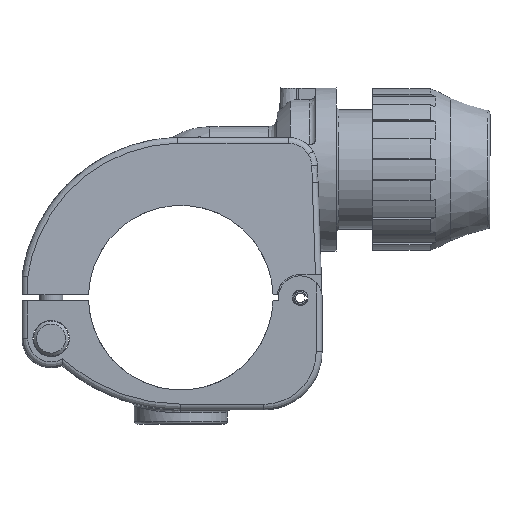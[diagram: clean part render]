
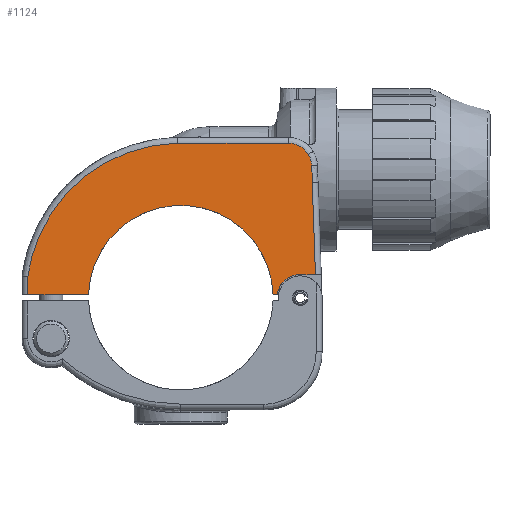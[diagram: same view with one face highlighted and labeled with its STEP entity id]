
A CAD part, left-side view. The second image highlights one B-rep face of the part: STEP entity #1124.
In plain terms, the highlighted planar face has unit normal (-0.999, 0, 0.035).
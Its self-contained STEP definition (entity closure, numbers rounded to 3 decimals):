
#1124 = ADVANCED_FACE( '', ( #2360 ), #2361, .F. );
#2360 = FACE_OUTER_BOUND( '', #14525, .T. );
#2361 = PLANE( '', #14526 );
#14525 = EDGE_LOOP( '', ( #19640, #19641, #19642, #19643, #19644, #19645, #19646, #19647, #19648, #19649, #19650, #19651 ) );
#14526 = AXIS2_PLACEMENT_3D( '', #19652, #19653, #19654 );
#19640 = ORIENTED_EDGE( '', *, *, #21453, .F. );
#19641 = ORIENTED_EDGE( '', *, *, #21175, .T. );
#19642 = ORIENTED_EDGE( '', *, *, #21611, .F. );
#19643 = ORIENTED_EDGE( '', *, *, #21312, .F. );
#19644 = ORIENTED_EDGE( '', *, *, #21670, .F. );
#19645 = ORIENTED_EDGE( '', *, *, #21671, .F. );
#19646 = ORIENTED_EDGE( '', *, *, #21284, .F. );
#19647 = ORIENTED_EDGE( '', *, *, #21308, .F. );
#19648 = ORIENTED_EDGE( '', *, *, #20765, .F. );
#19649 = ORIENTED_EDGE( '', *, *, #21391, .F. );
#19650 = ORIENTED_EDGE( '', *, *, #21218, .F. );
#19651 = ORIENTED_EDGE( '', *, *, #21295, .F. );
#19652 = CARTESIAN_POINT( '', ( -289.403, 174.233, 44.349 ) );
#19653 = DIRECTION( '', ( 0.999, 0., -0.035 ) );
#19654 = DIRECTION( '', ( 0.035, 0., 0.999 ) );
#20765 = EDGE_CURVE( '', #22363, #22365, #22366, .F. );
#21175 = EDGE_CURVE( '', #23004, #23006, #23008, .T. );
#21218 = EDGE_CURVE( '', #23071, #22823, #23072, .F. );
#21284 = EDGE_CURVE( '', #23162, #23164, #23165, .T. );
#21295 = EDGE_CURVE( '', #23177, #23071, #23179, .F. );
#21308 = EDGE_CURVE( '', #22365, #23162, #23197, .T. );
#21312 = EDGE_CURVE( '', #23200, #23203, #23204, .T. );
#21391 = EDGE_CURVE( '', #22823, #22363, #23313, .T. );
#21453 = EDGE_CURVE( '', #23004, #23177, #23392, .F. );
#21611 = EDGE_CURVE( '', #23203, #23006, #23597, .F. );
#21670 = EDGE_CURVE( '', #23662, #23200, #23663, .T. );
#21671 = EDGE_CURVE( '', #23164, #23662, #23664, .T. );
#22363 = VERTEX_POINT( '', #26239 );
#22365 = VERTEX_POINT( '', #26241 );
#22366 = ELLIPSE( '', #26242, 8.005, 8. );
#22823 = VERTEX_POINT( '', #28861 );
#23004 = VERTEX_POINT( '', #30119 );
#23006 = VERTEX_POINT( '', #30122 );
#23008 = ELLIPSE( '', #30125, 31.719, 31.7 );
#23071 = VERTEX_POINT( '', #30318 );
#23072 = ELLIPSE( '', #30319, 53.032, 53. );
#23162 = VERTEX_POINT( '', #31165 );
#23164 = VERTEX_POINT( '', #31167 );
#23165 = B_SPLINE_CURVE_WITH_KNOTS( '', 3, ( #31168, #31169, #31170, #31171, #31172, #31173, #31174, #31175, #31176, #31177, #31178, #31179 ), .UNSPECIFIED., .F., .F., ( 4, 1, 2, 1, 1, 1, 1, 1, 4 ), ( 0., 0.001, 0.001, 0.002, 0.003, 0.004, 0.004, 0.005, 0.006 ), .UNSPECIFIED. );
#23177 = VERTEX_POINT( '', #31193 );
#23179 = LINE( '', #31195, #31196 );
#23197 = B_SPLINE_CURVE_WITH_KNOTS( '', 3, ( #31222, #31223, #31224, #31225, #31226, #31227, #31228, #31229, #31230, #31231, #31232, #31233, #31234, #31235, #31236, #31237, #31238, #31239, #31240, #31241 ), .UNSPECIFIED., .F., .F., ( 4, 2, 2, 1, 1, 1, 1, 2, 2, 2, 1, 1, 4 ), ( 0., 0., 0., 0.001, 0.001, 0.002, 0.002, 0.003, 0.003, 0.003, 0.003, 0.004, 0.004 ), .UNSPECIFIED. );
#23200 = VERTEX_POINT( '', #31244 );
#23203 = VERTEX_POINT( '', #31248 );
#23204 = ELLIPSE( '', #31249, 8.005, 8. );
#23313 = LINE( '', #31674, #31675 );
#23392 = LINE( '', #31834, #31835 );
#23597 = LINE( '', #32877, #32878 );
#23662 = VERTEX_POINT( '', #33093 );
#23663 = LINE( '', #33094, #33095 );
#23664 = LINE( '', #33096, #33097 );
#26239 = CARTESIAN_POINT( '', ( -287.585, 212.81, 96.419 ) );
#26241 = CARTESIAN_POINT( '', ( -287.72, 205.958, 92.548 ) );
#26242 = AXIS2_PLACEMENT_3D( '', #34011, #34012, #34013 );
#28861 = CARTESIAN_POINT( '', ( -287.585, 250.783, 96.414 ) );
#30119 = CARTESIAN_POINT( '', ( -289.403, 281.417, 44.349 ) );
#30122 = CARTESIAN_POINT( '', ( -289.403, 218.048, 44.349 ) );
#30125 = AXIS2_PLACEMENT_3D( '', #34450, #34451, #34452 );
#30318 = CARTESIAN_POINT( '', ( -289.182, 302.233, 50.682 ) );
#30319 = AXIS2_PLACEMENT_3D( '', #34504, #34505, #34506 );
#31165 = CARTESIAN_POINT( '', ( -287.855, 204.746, 88.676 ) );
#31167 = CARTESIAN_POINT( '', ( -288.056, 204.614, 82.933 ) );
#31168 = CARTESIAN_POINT( '', ( -287.855, 204.746, 88.676 ) );
#31169 = CARTESIAN_POINT( '', ( -287.864, 204.737, 88.437 ) );
#31170 = CARTESIAN_POINT( '', ( -287.881, 204.72, 87.958 ) );
#31171 = CARTESIAN_POINT( '', ( -287.897, 204.706, 87.48 ) );
#31172 = CARTESIAN_POINT( '', ( -287.914, 204.695, 87.001 ) );
#31173 = CARTESIAN_POINT( '', ( -287.931, 204.684, 86.522 ) );
#31174 = CARTESIAN_POINT( '', ( -287.956, 204.672, 85.805 ) );
#31175 = CARTESIAN_POINT( '', ( -287.981, 204.661, 85.087 ) );
#31176 = CARTESIAN_POINT( '', ( -288.006, 204.65, 84.369 ) );
#31177 = CARTESIAN_POINT( '', ( -288.031, 204.636, 83.651 ) );
#31178 = CARTESIAN_POINT( '', ( -288.048, 204.622, 83.172 ) );
#31179 = CARTESIAN_POINT( '', ( -288.056, 204.614, 82.933 ) );
#31193 = CARTESIAN_POINT( '', ( -289.403, 302.233, 44.349 ) );
#31195 = CARTESIAN_POINT( '', ( -289.18, 302.233, 50.749 ) );
#31196 = VECTOR( '', #34601, 1000. );
#31222 = CARTESIAN_POINT( '', ( -287.72, 205.958, 92.548 ) );
#31223 = CARTESIAN_POINT( '', ( -287.723, 205.914, 92.475 ) );
#31224 = CARTESIAN_POINT( '', ( -287.725, 205.871, 92.401 ) );
#31225 = CARTESIAN_POINT( '', ( -287.729, 205.807, 92.289 ) );
#31226 = CARTESIAN_POINT( '', ( -287.731, 205.786, 92.251 ) );
#31227 = CARTESIAN_POINT( '', ( -287.733, 205.745, 92.176 ) );
#31228 = CARTESIAN_POINT( '', ( -287.74, 205.643, 91.987 ) );
#31229 = CARTESIAN_POINT( '', ( -287.752, 205.473, 91.643 ) );
#31230 = CARTESIAN_POINT( '', ( -287.768, 205.273, 91.174 ) );
#31231 = CARTESIAN_POINT( '', ( -287.785, 205.102, 90.694 ) );
#31232 = CARTESIAN_POINT( '', ( -287.796, 205.008, 90.366 ) );
#31233 = CARTESIAN_POINT( '', ( -287.804, 204.956, 90.158 ) );
#31234 = CARTESIAN_POINT( '', ( -287.805, 204.946, 90.117 ) );
#31235 = CARTESIAN_POINT( '', ( -287.808, 204.926, 90.033 ) );
#31236 = CARTESIAN_POINT( '', ( -287.81, 204.917, 89.991 ) );
#31237 = CARTESIAN_POINT( '', ( -287.814, 204.889, 89.866 ) );
#31238 = CARTESIAN_POINT( '', ( -287.823, 204.839, 89.613 ) );
#31239 = CARTESIAN_POINT( '', ( -287.838, 204.778, 89.189 ) );
#31240 = CARTESIAN_POINT( '', ( -287.849, 204.752, 88.847 ) );
#31241 = CARTESIAN_POINT( '', ( -287.855, 204.746, 88.676 ) );
#31244 = CARTESIAN_POINT( '', ( -289.161, 209.653, 51.296 ) );
#31248 = CARTESIAN_POINT( '', ( -289.403, 216.67, 44.349 ) );
#31249 = AXIS2_PLACEMENT_3D( '', #34611, #34612, #34613 );
#31674 = CARTESIAN_POINT( '', ( -287.585, 249.733, 96.419 ) );
#31675 = VECTOR( '', #34705, 1000. );
#31834 = CARTESIAN_POINT( '', ( -289.403, 174.233, 44.349 ) );
#31835 = VECTOR( '', #34797, 1000. );
#32877 = CARTESIAN_POINT( '', ( -289.403, 174.233, 44.349 ) );
#32878 = VECTOR( '', #34955, 1000. );
#33093 = CARTESIAN_POINT( '', ( -289.161, 203.509, 51.296 ) );
#33094 = CARTESIAN_POINT( '', ( -289.161, 174.233, 51.296 ) );
#33095 = VECTOR( '', #35000, 1000. );
#33096 = CARTESIAN_POINT( '', ( -289.439, 203.231, 43.338 ) );
#33097 = VECTOR( '', #35001, 1000. );
#34011 = CARTESIAN_POINT( '', ( -287.864, 212.81, 88.419 ) );
#34012 = DIRECTION( '', ( -0.999, 0., 0.035 ) );
#34013 = DIRECTION( '', ( -0.035, 0., -0.999 ) );
#34450 = CARTESIAN_POINT( '', ( -289.438, 249.733, 43.349 ) );
#34451 = DIRECTION( '', ( 0.999, 0., -0.035 ) );
#34452 = DIRECTION( '', ( -0.035, 0., -0.999 ) );
#34504 = CARTESIAN_POINT( '', ( -289.436, 249.733, 43.419 ) );
#34505 = DIRECTION( '', ( -0.999, 0., 0.035 ) );
#34506 = DIRECTION( '', ( 0.035, 0., 0.999 ) );
#34601 = DIRECTION( '', ( -0.035, 0., -0.999 ) );
#34611 = CARTESIAN_POINT( '', ( -289.438, 208.733, 43.349 ) );
#34612 = DIRECTION( '', ( -0.999, 0., 0.035 ) );
#34613 = DIRECTION( '', ( 0.035, 0., 0.999 ) );
#34705 = DIRECTION( '', ( 0., -1., 0. ) );
#34797 = DIRECTION( '', ( 0., -1., 0. ) );
#34955 = DIRECTION( '', ( 0., -1., 0. ) );
#35000 = DIRECTION( '', ( 0., 1., 0. ) );
#35001 = DIRECTION( '', ( -0.035, -0.035, -0.999 ) );
